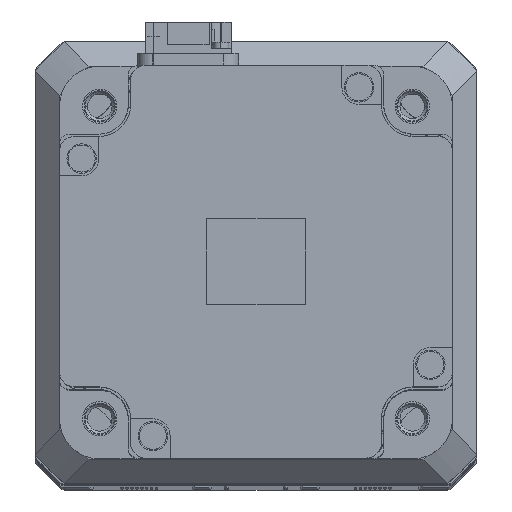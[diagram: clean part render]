
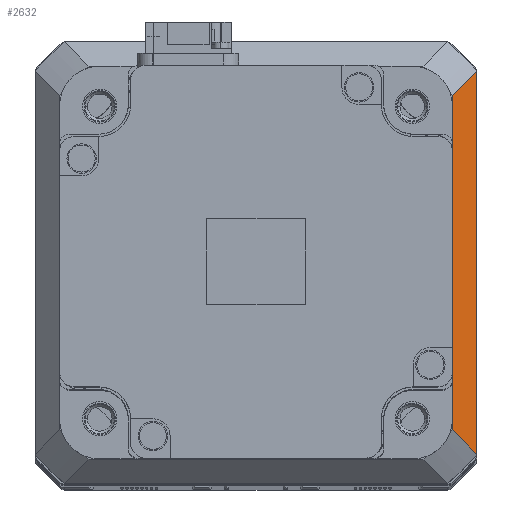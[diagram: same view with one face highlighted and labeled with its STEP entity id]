
A CAD part, top view. The second image highlights one B-rep face of the part: STEP entity #2632.
In plain terms, the highlighted planar face has unit normal (0.707, 0, 0.707).
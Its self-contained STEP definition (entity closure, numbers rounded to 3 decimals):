
#399 = B_SPLINE_CURVE_WITH_KNOTS ( 'NONE', 3,
 ( #35916, #8336, #16267, #43880 ),
 .UNSPECIFIED., .F., .F.,
 ( 4, 4 ),
 ( 0., 0.009 ),
 .UNSPECIFIED. ) ;
#1382 = CARTESIAN_POINT ( 'NONE',  ( 45., -24., 94. ) ) ;
#2121 = VERTEX_POINT ( 'NONE', #39598 ) ;
#2632 = ADVANCED_FACE ( 'NONE', ( #7343 ), #46783, .F. ) ;
#3484 = VERTEX_POINT ( 'NONE', #14842 ) ;
#4880 = EDGE_CURVE ( 'NONE', #3484, #14914, #29717, .T. ) ;
#5033 = ORIENTED_EDGE ( 'NONE', *, *, #21668, .F. ) ;
#6008 = CARTESIAN_POINT ( 'NONE',  ( 40., -34.004, 99. ) ) ;
#7051 = LINE ( 'NONE', #9027, #37303 ) ;
#7343 = FACE_OUTER_BOUND ( 'NONE', #46655, .T. ) ;
#7433 = CARTESIAN_POINT ( 'NONE',  ( 42.5, 0., 96.5 ) ) ;
#8336 = CARTESIAN_POINT ( 'NONE',  ( 41.666, 35.671, 97.334 ) ) ;
#9027 = CARTESIAN_POINT ( 'NONE',  ( 40., 0., 99. ) ) ;
#11900 = AXIS2_PLACEMENT_3D ( 'NONE', #7433, #19352, #46949 ) ;
#14113 = CARTESIAN_POINT ( 'NONE',  ( 45., -39.003, 94. ) ) ;
#14842 = CARTESIAN_POINT ( 'NONE',  ( 45., -39.003, 94. ) ) ;
#14914 = VERTEX_POINT ( 'NONE', #6008 ) ;
#15384 = ORIENTED_EDGE ( 'NONE', *, *, #34506, .F. ) ;
#16267 = CARTESIAN_POINT ( 'NONE',  ( 43.333, 37.337, 95.667 ) ) ;
#16678 = ORIENTED_EDGE ( 'NONE', *, *, #4880, .F. ) ;
#17493 = VECTOR ( 'NONE', #25027, 1000. ) ;
#19352 = DIRECTION ( 'NONE',  ( -0.707, 0., -0.707 ) ) ;
#20294 = VERTEX_POINT ( 'NONE', #26048 ) ;
#21668 = EDGE_CURVE ( 'NONE', #20294, #3484, #48980, .T. ) ;
#22009 = CARTESIAN_POINT ( 'NONE',  ( 40., -34.004, 99. ) ) ;
#24676 = DIRECTION ( 'NONE',  ( 0., 1., 0. ) ) ;
#25027 = DIRECTION ( 'NONE',  ( 0., -1., 0. ) ) ;
#26048 = CARTESIAN_POINT ( 'NONE',  ( 45., 39.003, 94. ) ) ;
#27976 = EDGE_CURVE ( 'NONE', #2121, #20294, #399, .T. ) ;
#29717 = B_SPLINE_CURVE_WITH_KNOTS ( 'NONE', 3,
 ( #14113, #37566, #45679, #22009 ),
 .UNSPECIFIED., .F., .F.,
 ( 4, 4 ),
 ( 0., 0.009 ),
 .UNSPECIFIED. ) ;
#34506 = EDGE_CURVE ( 'NONE', #14914, #2121, #7051, .T. ) ;
#35916 = CARTESIAN_POINT ( 'NONE',  ( 40., 34.004, 99. ) ) ;
#37303 = VECTOR ( 'NONE', #24676, 1000. ) ;
#37566 = CARTESIAN_POINT ( 'NONE',  ( 43.333, -37.337, 95.667 ) ) ;
#39006 = ORIENTED_EDGE ( 'NONE', *, *, #27976, .F. ) ;
#39598 = CARTESIAN_POINT ( 'NONE',  ( 40., 34.004, 99. ) ) ;
#43880 = CARTESIAN_POINT ( 'NONE',  ( 45., 39.003, 94. ) ) ;
#45679 = CARTESIAN_POINT ( 'NONE',  ( 41.666, -35.671, 97.334 ) ) ;
#46655 = EDGE_LOOP ( 'NONE', ( #39006, #15384, #16678, #5033 ) ) ;
#46783 = PLANE ( 'NONE',  #11900 ) ;
#46949 = DIRECTION ( 'NONE',  ( 0.707, 0., -0.707 ) ) ;
#48980 = LINE ( 'NONE', #1382, #17493 ) ;
